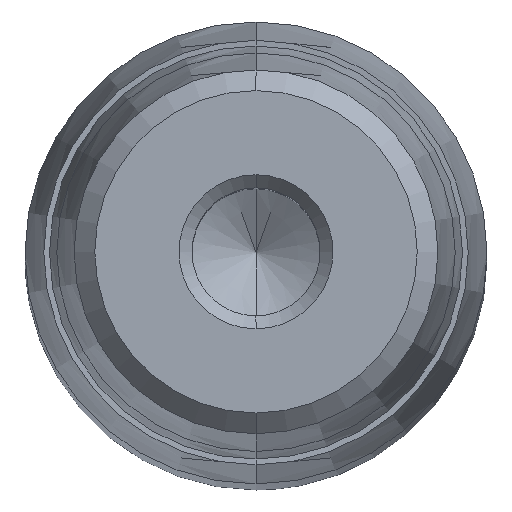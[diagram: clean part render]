
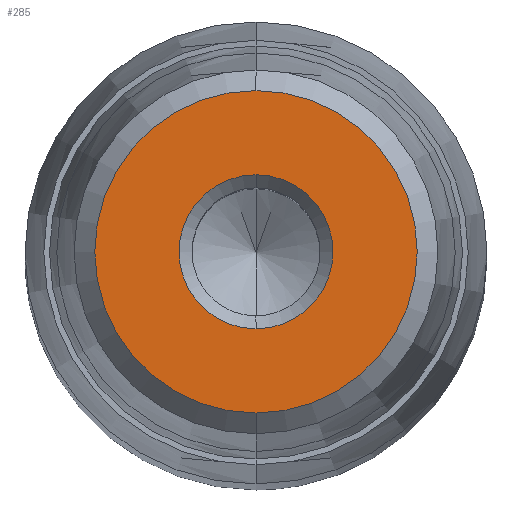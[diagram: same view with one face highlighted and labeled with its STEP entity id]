
A CAD part, top view. The second image highlights one B-rep face of the part: STEP entity #285.
In plain terms, the highlighted planar face has unit normal (0, 0, 1).
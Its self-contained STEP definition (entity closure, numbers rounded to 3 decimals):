
#164=CARTESIAN_POINT('Axis2P3D Location',(0.,0.,35.)) ;
#168=CARTESIAN_POINT('Vertex',(4.,0.,35.)) ;
#170=CARTESIAN_POINT('Vertex',(0.,-4.,35.)) ;
#173=CARTESIAN_POINT('Axis2P3D Location',(0.,0.,35.)) ;
#177=CARTESIAN_POINT('Vertex',(0.,4.,35.)) ;
#228=CARTESIAN_POINT('Axis2P3D Location',(0.,4.,35.)) ;
#233=CARTESIAN_POINT('Axis2P3D Location',(0.,0.,35.)) ;
#237=CARTESIAN_POINT('Vertex',(0.,8.375,35.)) ;
#239=CARTESIAN_POINT('Vertex',(8.375,0.,35.)) ;
#242=CARTESIAN_POINT('Axis2P3D Location',(0.,0.,35.)) ;
#246=CARTESIAN_POINT('Vertex',(-8.375,0.,35.)) ;
#249=CARTESIAN_POINT('Axis2P3D Location',(0.,0.,35.)) ;
#253=CARTESIAN_POINT('Vertex',(0.,-8.375,35.)) ;
#256=CARTESIAN_POINT('Axis2P3D Location',(0.,0.,35.)) ;
#267=CARTESIAN_POINT('Axis2P3D Location',(0.,0.,35.)) ;
#271=CARTESIAN_POINT('Vertex',(-4.,0.,35.)) ;
#274=CARTESIAN_POINT('Axis2P3D Location',(0.,0.,35.)) ;
#165=DIRECTION('Axis2P3D Direction',(-0.,0.,1.)) ;
#174=DIRECTION('Axis2P3D Direction',(-0.,0.,1.)) ;
#229=DIRECTION('Axis2P3D Direction',(0.,0.,-1.)) ;
#230=DIRECTION('Axis2P3D XDirection',(0.,1.,0.)) ;
#234=DIRECTION('Axis2P3D Direction',(0.,0.,-1.)) ;
#243=DIRECTION('Axis2P3D Direction',(0.,0.,-1.)) ;
#250=DIRECTION('Axis2P3D Direction',(0.,0.,-1.)) ;
#257=DIRECTION('Axis2P3D Direction',(0.,0.,-1.)) ;
#268=DIRECTION('Axis2P3D Direction',(0.,0.,-1.)) ;
#275=DIRECTION('Axis2P3D Direction',(0.,0.,-1.)) ;
#166=AXIS2_PLACEMENT_3D('Circle Axis2P3D',#164,#165,$) ;
#175=AXIS2_PLACEMENT_3D('Circle Axis2P3D',#173,#174,$) ;
#231=AXIS2_PLACEMENT_3D('Plane Axis2P3D',#228,#229,#230) ;
#235=AXIS2_PLACEMENT_3D('Circle Axis2P3D',#233,#234,$) ;
#244=AXIS2_PLACEMENT_3D('Circle Axis2P3D',#242,#243,$) ;
#251=AXIS2_PLACEMENT_3D('Circle Axis2P3D',#249,#250,$) ;
#258=AXIS2_PLACEMENT_3D('Circle Axis2P3D',#256,#257,$) ;
#269=AXIS2_PLACEMENT_3D('Circle Axis2P3D',#267,#268,$) ;
#276=AXIS2_PLACEMENT_3D('Circle Axis2P3D',#274,#275,$) ;
#262=ORIENTED_EDGE('',*,*,#241,.F.) ;
#263=ORIENTED_EDGE('',*,*,#248,.F.) ;
#264=ORIENTED_EDGE('',*,*,#255,.F.) ;
#265=ORIENTED_EDGE('',*,*,#260,.F.) ;
#280=ORIENTED_EDGE('',*,*,#172,.T.) ;
#281=ORIENTED_EDGE('',*,*,#273,.T.) ;
#282=ORIENTED_EDGE('',*,*,#278,.T.) ;
#283=ORIENTED_EDGE('',*,*,#179,.T.) ;
#284=FACE_BOUND('',#279,.T.) ;
#285=ADVANCED_FACE('722-24x200x223',(#266,#284),#232,.F.) ;
#167=CIRCLE('generated circle',#166,4.) ;
#176=CIRCLE('generated circle',#175,4.) ;
#236=CIRCLE('generated circle',#235,8.375) ;
#245=CIRCLE('generated circle',#244,8.375) ;
#252=CIRCLE('generated circle',#251,8.375) ;
#259=CIRCLE('generated circle',#258,8.375) ;
#270=CIRCLE('generated circle',#269,4.) ;
#277=CIRCLE('generated circle',#276,4.) ;
#172=EDGE_CURVE('',#169,#171,#167,.F.) ;
#179=EDGE_CURVE('',#178,#169,#176,.F.) ;
#241=EDGE_CURVE('',#238,#240,#236,.T.) ;
#248=EDGE_CURVE('',#247,#238,#245,.T.) ;
#255=EDGE_CURVE('',#254,#247,#252,.T.) ;
#260=EDGE_CURVE('',#240,#254,#259,.T.) ;
#273=EDGE_CURVE('',#171,#272,#270,.T.) ;
#278=EDGE_CURVE('',#272,#178,#277,.T.) ;
#261=EDGE_LOOP('',(#262,#263,#264,#265)) ;
#279=EDGE_LOOP('',(#280,#281,#282,#283)) ;
#266=FACE_OUTER_BOUND('',#261,.T.) ;
#232=PLANE('Plane',#231) ;
#169=VERTEX_POINT('',#168) ;
#171=VERTEX_POINT('',#170) ;
#178=VERTEX_POINT('',#177) ;
#238=VERTEX_POINT('',#237) ;
#240=VERTEX_POINT('',#239) ;
#247=VERTEX_POINT('',#246) ;
#254=VERTEX_POINT('',#253) ;
#272=VERTEX_POINT('',#271) ;
